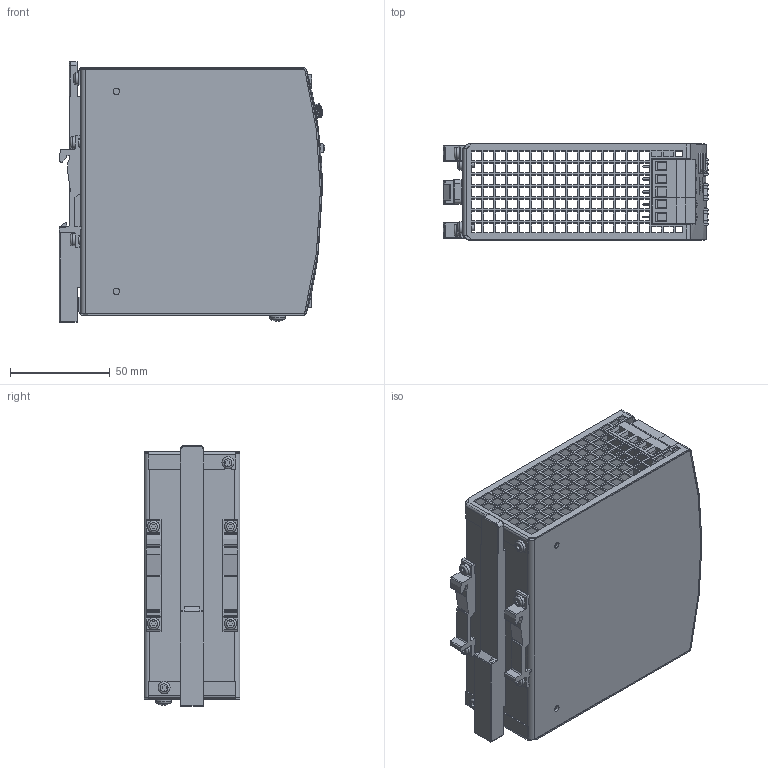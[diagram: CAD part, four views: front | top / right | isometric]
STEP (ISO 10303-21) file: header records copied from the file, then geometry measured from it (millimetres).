
FILE_DESCRIPTION(/* description */ (''),/* implementation_level */ '2;1');
FILE_NAME(/* name */ 'L:\MKT-GER\Neue Webdokumente\Daten von KO\CP20.241-V1\md3_cp20_241-v1.stp',/* time_stamp */ '2017-12-21T11:47:13+01:00',/* author */ ('rahns'),/* organization */ (''),/* preprocessor_version */ 'ST-DEVELOPER v17',/* originating_system */ 'Autodesk Inventor 2018',/* authorisation */ '');
FILE_SCHEMA (('CONFIG_CONTROL_DESIGN'));
Products named in the file (13): 426.08; HOUSING BODY 426.00; HOUSING COVER 426.08; FRONTFOIL 426.08; MKT_SLIDER; MKT_T HOLDER; MKT_SCREW 3x6; MKT_LED GN; MKT_POTI COVER; MKT_LP3BK-D2; MKT_LP2BK-D2; MKT_SCREW 4x8; MKT_LP2SW-R6
Assembly tree (21 placements, depth 2):
  426.08
    HOUSING BODY 426.00
    HOUSING COVER 426.08
    FRONTFOIL 426.08
    MKT_SLIDER
    MKT_SCREW 3x6  x6
    MKT_T HOLDER  x2
    MKT_LED GN
    MKT_POTI COVER
    MKT_LP3BK-D2  x2
    MKT_LP2BK-D2
    MKT_SCREW 4x8
    MKT_LP2SW-R6  x3
Bounding box: 132.8 x 48 x 130.5 mm (x, y, z)
Volume: 88412.7 mm3; surface area: 122194 mm2
Topology: 22 solids, 22 shells, 3527 faces, 9735 edges, 6486 vertices
Faces by surface type: plane 2398, bspline 704, cylinder 355, cone 32, torus 25, sphere 13
Full cylindrical faces by diameter (mm): 0.05 x2, 0.3 x12, 2.45 x2, 2.7 x1, 3 x6, 3.1 x4, 3.2 x3, 3.621 x1, 4 x1, 4.355 x1, 4.5 x1, 4.6 x1, 5.15 x8, 6 x6
Entity records: 126598 total; most frequent: CARTESIAN_POINT 49136, ORIENTED_EDGE 17188, DIRECTION 13201, EDGE_CURVE 8594, LINE 5929, VECTOR 5929, VERTEX_POINT 5720, EDGE_LOOP 3784
